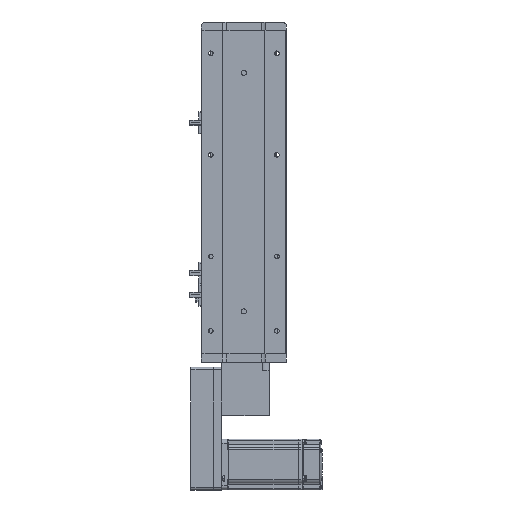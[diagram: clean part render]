
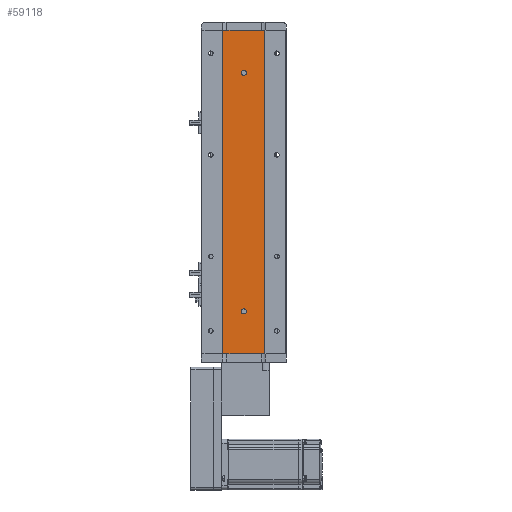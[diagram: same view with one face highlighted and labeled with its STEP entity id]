
A CAD part, left-side view. The second image highlights one B-rep face of the part: STEP entity #59118.
In plain terms, the highlighted planar face has unit normal (-1, 0, 0).
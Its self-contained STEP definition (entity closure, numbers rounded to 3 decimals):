
#1054 = ORIENTED_EDGE ( 'NONE', *, *, #49969, .F. ) ;
#1298 = ORIENTED_EDGE ( 'NONE', *, *, #7345, .F. ) ;
#1975 = VECTOR ( 'NONE', #48447, 1000. ) ;
#2256 = ORIENTED_EDGE ( 'NONE', *, *, #17142, .T. ) ;
#3075 = AXIS2_PLACEMENT_3D ( 'NONE', #40279, #12622, #44907 ) ;
#4789 = VECTOR ( 'NONE', #10036, 1000. ) ;
#4948 = CIRCLE ( 'NONE', #3075, 3. ) ;
#5062 = ORIENTED_EDGE ( 'NONE', *, *, #25894, .F. ) ;
#5406 = ORIENTED_EDGE ( 'NONE', *, *, #6250, .F. ) ;
#6250 = EDGE_CURVE ( 'NONE', #40448, #27887, #51037, .T. ) ;
#7345 = EDGE_CURVE ( 'NONE', #38632, #18546, #52750, .T. ) ;
#10036 = DIRECTION ( 'NONE',  ( 0., 0., -1. ) ) ;
#10659 = FACE_BOUND ( 'NONE', #53419, .T. ) ;
#12082 = CARTESIAN_POINT ( 'NONE',  ( -18.926, 0., 335. ) ) ;
#12622 = DIRECTION ( 'NONE',  ( -1., 0., 0. ) ) ;
#13094 = VERTEX_POINT ( 'NONE', #35453 ) ;
#14110 = VECTOR ( 'NONE', #55964, 1000. ) ;
#14167 = VERTEX_POINT ( 'NONE', #18022 ) ;
#14986 = AXIS2_PLACEMENT_3D ( 'NONE', #26165, #58378, #30816 ) ;
#17142 = EDGE_CURVE ( 'NONE', #14167, #42924, #27866, .T. ) ;
#17770 = DIRECTION ( 'NONE',  ( 0., 0., -1. ) ) ;
#18022 = CARTESIAN_POINT ( 'NONE',  ( -18.926, 24.785, 0. ) ) ;
#18546 = VERTEX_POINT ( 'NONE', #12082 ) ;
#18764 = DIRECTION ( 'NONE',  ( -1., 0., 0. ) ) ;
#20982 = DIRECTION ( 'NONE',  ( -1., 0., 0. ) ) ;
#21011 = VECTOR ( 'NONE', #17770, 1000. ) ;
#22521 = CARTESIAN_POINT ( 'NONE',  ( -18.926, -24.785, 382. ) ) ;
#23630 = AXIS2_PLACEMENT_3D ( 'NONE', #46389, #18764, #50988 ) ;
#23901 = EDGE_LOOP ( 'NONE', ( #29773, #1054 ) ) ;
#24411 = AXIS2_PLACEMENT_3D ( 'NONE', #48575, #20982, #53169 ) ;
#24598 = AXIS2_PLACEMENT_3D ( 'NONE', #26539, #58754, #31196 ) ;
#25894 = EDGE_CURVE ( 'NONE', #18546, #38632, #4948, .T. ) ;
#26165 = CARTESIAN_POINT ( 'NONE',  ( -18.926, 24.785, 382. ) ) ;
#26539 = CARTESIAN_POINT ( 'NONE',  ( -18.926, 0., 332. ) ) ;
#27866 = LINE ( 'NONE', #42289, #14110 ) ;
#27887 = VERTEX_POINT ( 'NONE', #22521 ) ;
#28057 = VERTEX_POINT ( 'NONE', #38014 ) ;
#28323 = CARTESIAN_POINT ( 'NONE',  ( -18.926, 0., 329. ) ) ;
#29773 = ORIENTED_EDGE ( 'NONE', *, *, #49707, .F. ) ;
#30623 = PLANE ( 'NONE',  #14986 ) ;
#30816 = DIRECTION ( 'NONE',  ( 0., 0., -1. ) ) ;
#31196 = DIRECTION ( 'NONE',  ( 0., 0., 1. ) ) ;
#32624 = CIRCLE ( 'NONE', #23630, 3. ) ;
#34545 = CARTESIAN_POINT ( 'NONE',  ( -18.926, 24.785, 382. ) ) ;
#35220 = FACE_BOUND ( 'NONE', #23901, .T. ) ;
#35453 = CARTESIAN_POINT ( 'NONE',  ( -18.926, 0., 47. ) ) ;
#36486 = CIRCLE ( 'NONE', #24411, 3. ) ;
#37685 = CARTESIAN_POINT ( 'NONE',  ( -18.926, 24.785, 382. ) ) ;
#38014 = CARTESIAN_POINT ( 'NONE',  ( -18.926, 0., 53. ) ) ;
#38632 = VERTEX_POINT ( 'NONE', #28323 ) ;
#38904 = ORIENTED_EDGE ( 'NONE', *, *, #54562, .F. ) ;
#40279 = CARTESIAN_POINT ( 'NONE',  ( -18.926, 0., 332. ) ) ;
#40448 = VERTEX_POINT ( 'NONE', #58385 ) ;
#42289 = CARTESIAN_POINT ( 'NONE',  ( -18.926, 24.785, 0. ) ) ;
#42924 = VERTEX_POINT ( 'NONE', #59688 ) ;
#43780 = EDGE_LOOP ( 'NONE', ( #2256, #38904, #5406, #59809 ) ) ;
#44907 = DIRECTION ( 'NONE',  ( 0., 0., 1. ) ) ;
#44962 = EDGE_CURVE ( 'NONE', #40448, #14167, #45951, .T. ) ;
#45437 = CARTESIAN_POINT ( 'NONE',  ( -18.926, -24.785, 382. ) ) ;
#45538 = LINE ( 'NONE', #45437, #21011 ) ;
#45951 = LINE ( 'NONE', #37685, #4789 ) ;
#46389 = CARTESIAN_POINT ( 'NONE',  ( -18.926, 0., 50. ) ) ;
#48447 = DIRECTION ( 'NONE',  ( 0., -1., 0. ) ) ;
#48575 = CARTESIAN_POINT ( 'NONE',  ( -18.926, 0., 50. ) ) ;
#49707 = EDGE_CURVE ( 'NONE', #28057, #13094, #32624, .T. ) ;
#49969 = EDGE_CURVE ( 'NONE', #13094, #28057, #36486, .T. ) ;
#50988 = DIRECTION ( 'NONE',  ( 0., 0., 1. ) ) ;
#51037 = LINE ( 'NONE', #34545, #1975 ) ;
#52750 = CIRCLE ( 'NONE', #24598, 3. ) ;
#53169 = DIRECTION ( 'NONE',  ( 0., 0., 1. ) ) ;
#53419 = EDGE_LOOP ( 'NONE', ( #5062, #1298 ) ) ;
#54562 = EDGE_CURVE ( 'NONE', #27887, #42924, #45538, .T. ) ;
#55964 = DIRECTION ( 'NONE',  ( 0., -1., 0. ) ) ;
#58378 = DIRECTION ( 'NONE',  ( 1., 0., 0. ) ) ;
#58385 = CARTESIAN_POINT ( 'NONE',  ( -18.926, 24.785, 382. ) ) ;
#58754 = DIRECTION ( 'NONE',  ( -1., 0., 0. ) ) ;
#59118 = ADVANCED_FACE ( 'NONE', ( #35220, #10659, #59704 ), #30623, .F. ) ;
#59688 = CARTESIAN_POINT ( 'NONE',  ( -18.926, -24.785, 0. ) ) ;
#59704 = FACE_OUTER_BOUND ( 'NONE', #43780, .T. ) ;
#59809 = ORIENTED_EDGE ( 'NONE', *, *, #44962, .T. ) ;
